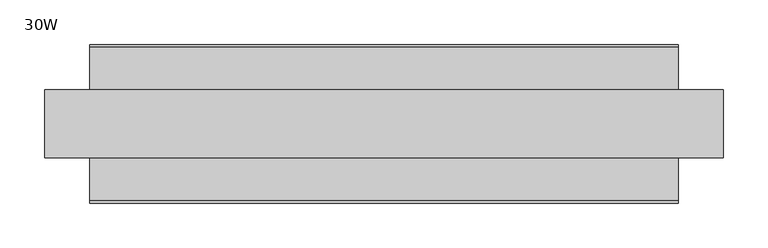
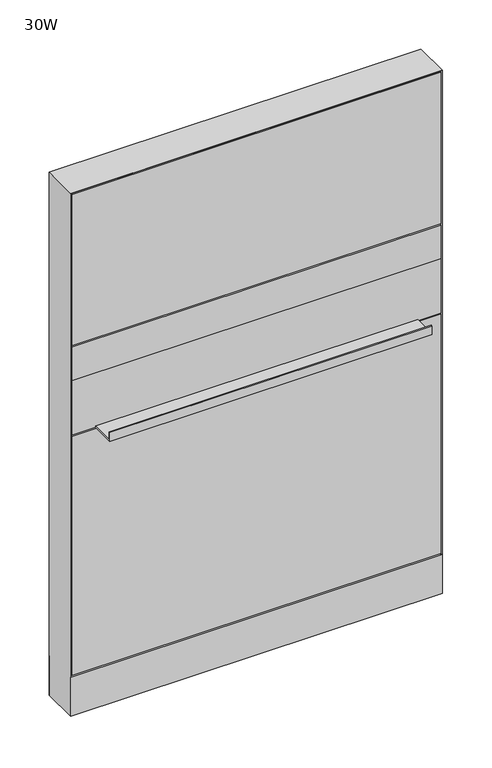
"""IFC4 building model written with IfcOpenShell, lengths in millimetres: furniture geometry, Steelcase - Montage - Frame - 45H - Enhanced Standard - Base and Desk-Height Cavity : 30W."""

from ifc_helpers import new_model, si_unit, point, frame, frame_2d, origin, origin_with_axes, place, context, project, spatial, polyline, circle_curve, trimmed, segment, composite_curve, outline, extrude, faceted_brep, source, transform, mapped, element, save


def furniture_30w_4dcf9d6c(model_context):
    return source(origin(), model_context, "Body", "SolidModel", [
        extrude(outline(polyline([(3.175, 31.7500194), (3.175, 38.1000194), (758.825, 38.1000194), (758.825, 31.7500194), (3.175, 31.7500194)])), frame((0.0, 0.0, 92.075), z_axis=(0.0, 0.0, 1.0), x_axis=(1.0, 0.0, 0.0)), (0.0, 0.0, 1.0), 517.525),
        extrude(outline(polyline([(88.8960768, 612.775), (38.0960752, 612.775), (38.0960752, 615.315), (86.3560768, 615.315), (86.3560768, 631.825), (88.8960768, 631.825), (88.8960768, 612.775)])), frame((50.8000015, 0.0, 0.0), z_axis=(1.0, 0.0, 0.0), x_axis=(0.0, 1.0, 0.0)), (0.0, 0.0, 1.0), 660.399997),
        extrude(outline(polyline([(3.175, 31.7460752), (3.175, 38.0960752), (758.825, 38.0960752), (758.825, 31.7460752), (3.175, 31.7460752)])), frame((0.0, 0.0, 730.2499516), z_axis=(0.0, 0.0, 1.0), x_axis=(1.0, 0.0, 0.0)), (0.0, 0.0, 1.0), 73.0250484),
        extrude(outline(polyline([(3.175, 31.7460752), (3.175, 38.0960752), (758.825, 38.0960752), (758.825, 31.7460752), (3.175, 31.7460752)])), frame((0.0, 0.0, 612.775), z_axis=(0.0, 0.0, 1.0), x_axis=(1.0, 0.0, 0.0)), (0.0, 0.0, 1.0), 117.4749516),
        extrude(outline(polyline([(3.175, 31.7500194), (3.175, 38.1000194), (758.825, 38.1000194), (758.825, 31.7500194), (3.175, 31.7500194)])), frame((0.0, 0.0, 806.45), z_axis=(0.0, 0.0, 1.0), x_axis=(1.0, 0.0, 0.0)), (0.0, 0.0, 1.0), 327.025),
        extrude(outline(polyline([(3.175, -31.7500194), (758.825, -31.7500194), (758.825, -38.1000194), (3.175, -38.1000194), (3.175, -31.7500194)])), frame((0.0, 0.0, 92.075), z_axis=(0.0, 0.0, 1.0), x_axis=(1.0, 0.0, 0.0)), (0.0, 0.0, 1.0), 517.525),
        extrude(outline(polyline([(-88.8960768, 612.775), (-88.8960768, 631.825), (-86.3560768, 631.825), (-86.3560768, 615.315), (-38.0960752, 615.315), (-38.0960752, 612.775), (-88.8960768, 612.775)])), frame((50.8000015, 0.0, 0.0), z_axis=(1.0, 0.0, 0.0), x_axis=(0.0, 1.0, 0.0)), (0.0, 0.0, 1.0), 660.399997),
        extrude(outline(polyline([(3.175, -31.7460752), (758.825, -31.7460752), (758.825, -38.0960752), (3.175, -38.0960752), (3.175, -31.7460752)])), frame((0.0, 0.0, 730.2499516), z_axis=(0.0, 0.0, 1.0), x_axis=(1.0, 0.0, 0.0)), (0.0, 0.0, 1.0), 73.0250484),
        extrude(outline(polyline([(3.175, -31.7460752), (758.825, -31.7460752), (758.825, -38.0960752), (3.175, -38.0960752), (3.175, -31.7460752)])), frame((0.0, 0.0, 612.775), z_axis=(0.0, 0.0, 1.0), x_axis=(1.0, 0.0, 0.0)), (0.0, 0.0, 1.0), 117.4749516),
        extrude(outline(polyline([(3.175, -31.7500194), (758.825, -31.7500194), (758.825, -38.1000194), (3.175, -38.1000194), (3.175, -31.7500194)])), frame((0.0, 0.0, 806.45), z_axis=(0.0, 0.0, 1.0), x_axis=(1.0, 0.0, 0.0)), (0.0, 0.0, 1.0), 327.025),
        extrude(outline(polyline([(755.6499879, 31.749953), (755.6499879, -31.7499985), (6.35, -31.7499985), (6.35, 31.749953), (755.6499879, 31.749953)])), frame((0.0, 0.0, 809.6250242), z_axis=(0.0, 0.0, 1.0), x_axis=(1.0, 0.0, 0.0)), (0.0, 0.0, 1.0), 320.6749273),
        extrude(outline(polyline([(755.6499879, 31.749953), (755.6499879, -31.7499985), (6.35, -31.7499985), (6.35, 31.749953), (755.6499879, 31.749953)])), frame((0.0, 0.0, 619.125), z_axis=(0.0, 0.0, 1.0), x_axis=(1.0, 0.0, 0.0)), (0.0, 0.0, 1.0), 177.8000242),
        extrude(outline(polyline([(755.6499879, 31.7500016), (755.6499879, -31.7499985), (6.35, -31.7499985), (6.35, 31.7500016), (755.6499879, 31.7500016)])), frame((0.0, 0.0, 88.899997), z_axis=(0.0, 0.0, 1.0), x_axis=(1.0, 0.0, 0.0)), (0.0, 0.0, 1.0), 517.525003),
        extrude(outline(polyline([(6.350003, -31.7499985), (755.649997, -31.7499985), (762.0, -38.1000015), (0.0, -38.1000015), (6.350003, -31.7499985)])), frame((0.0, 0.0, 4.064), z_axis=(0.0, 0.0, 1.0), x_axis=(1.0, 0.0, 0.0)), (0.0, 0.0, 1.0), 84.835997),
        extrude(outline(polyline([(6.3500002, 31.7500017), (0.0, 38.1000015), (762.0, 38.1000015), (755.6500002, 31.7500017), (6.3500002, 31.7500017)])), frame((0.0, 0.0, 4.064), z_axis=(0.0, 0.0, 1.0), x_axis=(1.0, 0.0, 0.0)), (0.0, 0.0, 1.0), 84.835997),
        faceted_brep([(762.0, -38.1000015, 1136.65), (0.0, -38.1000015, 1136.65), (6.3500484, -31.749953, 1130.2999516), (755.6499516, -31.749953, 1130.2999516), (6.3500484, 31.749953, 1130.2999516), (755.6499516, 31.749953, 1130.2999516), (0.0, 38.1000015, 1136.65), (762.0, 38.1000015, 1136.65)], [[[0, 1, 2, 3]], [[3, 2, 4, 5]], [[6, 7, 5, 4]], [[1, 0, 7, 6]], [[2, 1, 6, 4]], [[0, 3, 5, 7]]]),
        extrude(outline(composite_curve([segment(trimmed(circle_curve(frame_2d((44.45, 0.0)), 15.24), [point((29.21, 0.0))], [point((59.69, 0.0))], False, "CARTESIAN"), True, "CONTINUOUS"), segment(trimmed(circle_curve(frame_2d((44.45, 0.0)), 15.24), [point((59.69, 0.0))], [point((29.21, 0.0))], False, "CARTESIAN"), True, "CONTINUOUS")], self_intersect=False)), origin_with_axes(), (0.0, 0.0, 1.0), 4.064),
        extrude(outline(composite_curve([segment(trimmed(circle_curve(frame_2d((717.55, 0.0)), 15.24), [point((702.31, 0.0))], [point((732.79, 0.0))], False, "CARTESIAN"), True, "CONTINUOUS"), segment(trimmed(circle_curve(frame_2d((717.55, 0.0)), 15.24), [point((732.79, 0.0))], [point((702.31, 0.0))], False, "CARTESIAN"), True, "CONTINUOUS")], self_intersect=False)), origin_with_axes(), (0.0, 0.0, 1.0), 4.064),
        faceted_brep([(762.0, -38.1000106, 4.064), (762.0, 38.1000015, 4.064), (762.0, 38.1000015, 1136.65), (762.0, -38.1000106, 1136.6499637), (0.0, 38.1000015, 4.064), (0.0, -38.1000015, 4.064), (0.0, -38.1000015, 1136.65), (0.0, 38.1000015, 1136.65), (755.6499879, 31.7500017, 606.425), (6.35, 31.7500017, 606.425), (6.3499998, 31.7500017, 619.125), (755.6499879, 31.7500017, 619.125), (6.35, -31.7499985, 619.125), (755.6499879, -31.7499985, 619.125), (6.350003, -31.7499985, 606.425), (755.6499879, -31.7499985, 606.425), (755.6499879, 31.7500017, 796.9250242), (6.35, 31.7500017, 796.9250242), (6.3499998, 31.7500017, 809.6250242), (755.6499879, 31.7500017, 809.6250242), (6.35, -31.7499985, 809.6250242), (755.6499879, -31.7499985, 809.6250242), (6.350003, -31.7499985, 796.9250242), (755.6499879, -31.7499985, 796.9250242), (6.35, 31.7500015, 4.064), (6.35, -31.7500015, 4.064), (755.6499879, 31.7499894, 4.064), (755.6499879, -31.7499985, 4.064), (6.35, 31.7500015, 1130.3), (6.35, -31.7500015, 1130.3), (755.6499879, -31.7499985, 1130.2999516), (755.6499879, 31.7499896, 1130.2999516)], [[[0, 1, 2, 3]], [[4, 5, 6, 7]], [[8, 9, 10, 11]], [[11, 10, 12, 13]], [[13, 12, 14, 15]], [[9, 8, 15, 14]], [[16, 17, 18, 19]], [[19, 18, 20, 21]], [[21, 20, 22, 23]], [[17, 16, 23, 22]], [[24, 25, 5, 4]], [[26, 1, 0, 27]], [[24, 4, 7, 28, 18, 17, 10, 9]], [[5, 25, 14, 12, 22, 20, 29, 6]], [[20, 18, 28, 29]], [[25, 24, 9, 14]], [[10, 17, 22, 12]], [[19, 21, 30, 31]], [[26, 27, 15, 8]], [[16, 11, 13, 23]], [[27, 0, 3, 30, 21, 23, 13, 15]], [[1, 26, 8, 11, 16, 19, 31, 2]], [[7, 6, 29, 28]], [[3, 2, 31, 30]]]),
    ])


if __name__ == "__main__":
    model = new_model("IFC4")
    model_context = context("Model", 3, world=origin())
    ifc_project = project(units=[si_unit("LENGTHUNIT", "METRE", prefix="MILLI")], contexts=[model_context])
    site = spatial("IfcSite", under=ifc_project)
    building = spatial("IfcBuilding", under=site)
    placement = place(None, origin())
    furniture_30w_shape = furniture_30w_4dcf9d6c(model_context)
    element("IfcFurniture", 1, ObjectType="Steelcase - Montage - Frame - 45H - Enhanced Standard - Base and Desk-Height Cavity : 30W", at=placement, inside=building, context=model_context, shape_type="MappedRepresentation", body=[
        mapped(furniture_30w_shape, transform((0.0, 0.0, 0.0), x_axis=(1.0, 0.0, 0.0), y_axis=(0.0, 1.0, 0.0), z_axis=(0.0, 0.0, 1.0))),
    ])
    save(model, "model.ifc")
